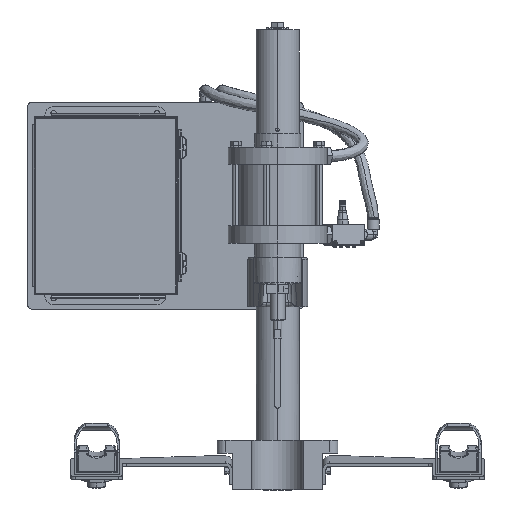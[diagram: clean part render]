
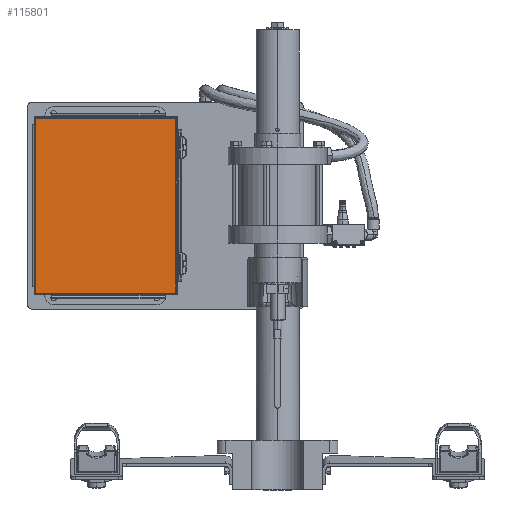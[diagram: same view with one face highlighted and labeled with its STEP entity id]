
A CAD part, top view. The second image highlights one B-rep face of the part: STEP entity #115801.
In plain terms, the highlighted planar face has unit normal (0, 0, 1) as drawn and (0.985, 0.174, 0) by its records, which use the part's own axes.
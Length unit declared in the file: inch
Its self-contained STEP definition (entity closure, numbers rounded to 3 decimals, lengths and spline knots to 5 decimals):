
#9959 = DIRECTION ( 'NONE',  ( 0., 0., 1. ) ) ;
#16654 = ORIENTED_EDGE ( 'NONE', *, *, #70788, .T. ) ;
#16669 = VERTEX_POINT ( 'NONE', #71636 ) ;
#24955 = EDGE_LOOP ( 'NONE', ( #16654, #120634, #41298, #136388 ) ) ;
#28790 = CARTESIAN_POINT ( 'NONE',  ( -7.41295, 8.23046, 3.2477 ) ) ;
#35636 = DIRECTION ( 'NONE',  ( 0., 0., -1. ) ) ;
#41255 = DIRECTION ( 'NONE',  ( 0.985, 0.174, 0. ) ) ;
#41298 = ORIENTED_EDGE ( 'NONE', *, *, #131598, .T. ) ;
#49062 = CARTESIAN_POINT ( 'NONE',  ( -7.42163, 8.27971, 11.4977 ) ) ;
#60953 = VECTOR ( 'NONE', #9959, 39.37008 ) ;
#62639 = FACE_OUTER_BOUND ( 'NONE', #24955, .T. ) ;
#63867 = LINE ( 'NONE', #49062, #176221 ) ;
#69497 = CARTESIAN_POINT ( 'NONE',  ( -9.19284, 18.32474, 11.4977 ) ) ;
#70788 = EDGE_CURVE ( 'NONE', #175377, #104580, #189245, .T. ) ;
#71636 = CARTESIAN_POINT ( 'NONE',  ( -7.42163, 8.27971, 11.4477 ) ) ;
#79078 = CARTESIAN_POINT ( 'NONE',  ( -9.19284, 18.32474, 11.4477 ) ) ;
#79724 = VECTOR ( 'NONE', #148010, 39.37008 ) ;
#84848 = PLANE ( 'NONE',  #175002 ) ;
#93164 = EDGE_CURVE ( 'NONE', #104580, #16669, #132729, .T. ) ;
#93604 = CARTESIAN_POINT ( 'NONE',  ( -9.19284, 18.32474, 3.2477 ) ) ;
#93631 = LINE ( 'NONE', #28790, #79724 ) ;
#104580 = VERTEX_POINT ( 'NONE', #79078 ) ;
#111626 = CARTESIAN_POINT ( 'NONE',  ( -7.42163, 8.27971, 3.2477 ) ) ;
#115801 = ADVANCED_FACE ( 'NONE', ( #62639 ), #84848, .T. ) ;
#120634 = ORIENTED_EDGE ( 'NONE', *, *, #93164, .T. ) ;
#128661 = VERTEX_POINT ( 'NONE', #111626 ) ;
#131598 = EDGE_CURVE ( 'NONE', #16669, #128661, #63867, .T. ) ;
#132729 = LINE ( 'NONE', #176616, #169219 ) ;
#133780 = EDGE_CURVE ( 'NONE', #128661, #175377, #93631, .T. ) ;
#136388 = ORIENTED_EDGE ( 'NONE', *, *, #133780, .T. ) ;
#142573 = DIRECTION ( 'NONE',  ( -0.174, 0.985, 0. ) ) ;
#148010 = DIRECTION ( 'NONE',  ( -0.174, 0.985, 0. ) ) ;
#161974 = DIRECTION ( 'NONE',  ( 0.174, -0.985, 0. ) ) ;
#169219 = VECTOR ( 'NONE', #161974, 39.37008 ) ;
#175002 = AXIS2_PLACEMENT_3D ( 'NONE', #187255, #41255, #142573 ) ;
#175377 = VERTEX_POINT ( 'NONE', #93604 ) ;
#176221 = VECTOR ( 'NONE', #35636, 39.37008 ) ;
#176616 = CARTESIAN_POINT ( 'NONE',  ( -7.41295, 8.23046, 11.4477 ) ) ;
#187255 = CARTESIAN_POINT ( 'NONE',  ( -7.41295, 8.23046, 11.4977 ) ) ;
#189245 = LINE ( 'NONE', #69497, #60953 ) ;
